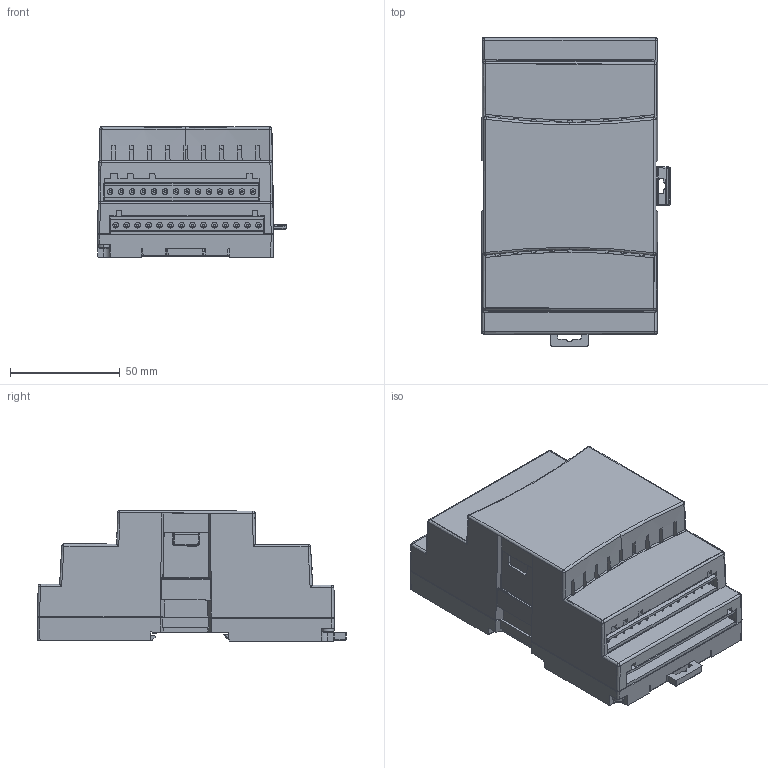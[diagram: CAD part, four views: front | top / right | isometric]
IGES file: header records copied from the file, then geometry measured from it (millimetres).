
Start section: SolidWorks IGES file using analytic representation for surfaces
Global section: file name: Z:\Products\IO-EXP-XL\CAD Files\3D Files\IGES\IO-EXP-XL.IGS; native system: SolidWorks 2011; preprocessor: SolidWorks 2011; author: baraki; date: 120702.132615; units: millimetre
Bounding box: 85.95 x 140.65 x 59.53 mm (x, y, z)
Surface area: 94400.2 mm2 (no closed solid volume)
Topology: 0 solids, 0 shells, 2044 faces, 19445 edges, 19416 vertices
Faces by surface type: bspline 1357, revolution 687
